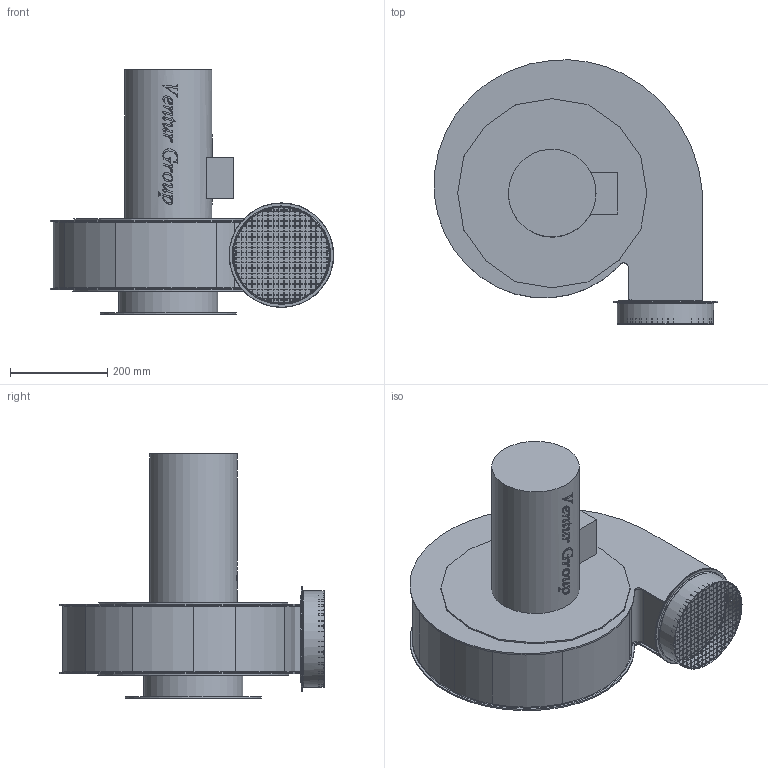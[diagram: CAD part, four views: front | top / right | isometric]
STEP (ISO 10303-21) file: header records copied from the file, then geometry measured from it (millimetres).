
FILE_DESCRIPTION(/* description */ (''),/* implementation_level */ '2;1');
FILE_NAME(/* name */ 'E:\Mariusz\Modele uproszczone\GMT-K\GMT-K_400_300T RD90 43552360\GMT-K_400_300T RD90 43552360\GMT-K_400_300T RD90 43552360.stp',/* time_stamp */ '2018-07-17T09:42:08+02:00',/* author */ ('M.Janczarek'),/* organization */ (''),/* preprocessor_version */ 'ST-DEVELOPER v16.5',/* originating_system */ 'Autodesk Inventor 2017',/* authorisation */ '');
FILE_SCHEMA (('AUTOMOTIVE_DESIGN { 1 0 10303 214 3 1 1 }'));
Length unit declared in the file: millimetre
Products named in the file (1): GMT-K_400_300T RD90 43552360_
Bounding box: 582.38 x 542.52 x 502.5 mm (x, y, z)
Volume: 39528404.7 mm3; surface area: 1160454.5 mm2
Topology: 1 solids, 1 shells, 1947 faces, 5765 edges, 3795 vertices
Faces by surface type: plane 1327, bspline 425, cylinder 173, torus 22
Full cylindrical faces by diameter (mm): 0.798 x1, 0.838 x1, 0.847 x1, 0.851 x1, 0.858 x1, 0.863 x1, 0.864 x1, 0.871 x1, 0.876 x1, 0.881 x1, 0.883 x1, 0.884 x1, 0.901 x1, 0.912 x1, 0.925 x1, 0.926 x1, 0.928 x1, 0.931 x1, 0.938 x1, 0.942 x1, 0.943 x1, 0.961 x1, 0.962 x1, 0.973 x2, 0.978 x1, 0.98 x1, 0.981 x1, 0.994 x1, 1 x1, 1.016 x1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
Entity records: 74669 total; most frequent: CARTESIAN_POINT 22731, ORIENTED_EDGE 11300, DIRECTION 8586, EDGE_CURVE 5650, LINE 4278, VECTOR 4278, VERTEX_POINT 3755, EDGE_LOOP 2597
